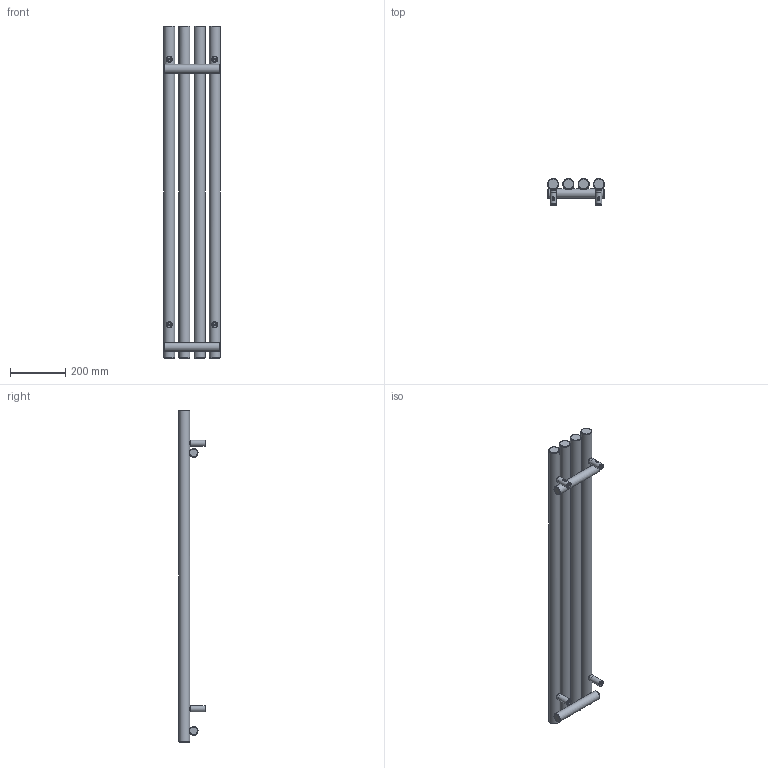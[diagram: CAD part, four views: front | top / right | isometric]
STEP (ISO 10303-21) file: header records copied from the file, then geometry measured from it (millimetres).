
FILE_DESCRIPTION(/* description */ (''),/* implementation_level */ '2;1');
FILE_NAME(/* name */ 'Z:\R\G\P\RGP116 - Grzejniki Geyser\Work\Inventor\Circolo (Rolo V, Rolo H)\ROLO-ROOM\Marketing\Bryły 3D\Zaokrąglone\WLROR120020-ES-CK-(Z).stp',/* time_stamp */ '2024-04-03T09:04:34+02:00',/* author */ ('NowAd'),/* organization */ (''),/* preprocessor_version */ 'ST-DEVELOPER v17.2',/* originating_system */ 'Autodesk Inventor 2019',/* authorisation */ '');
FILE_SCHEMA (('AUTOMOTIVE_DESIGN { 1 0 10303 214 3 1 1 }'));
Length unit declared in the file: millimetre
Products named in the file (3): WLROR120020-ES-CK-(Z); PGROR120020-ES-CK-(K); CK-V-fi40 marketing
Assembly tree (5 placements, depth 2):
  WLROR120020-ES-CK-(Z)
    PGROR120020-ES-CK-(K)
    CK-V-fi40 marketing  x4
Bounding box: 205 x 96.5 x 1200 mm (x, y, z)
Volume: 6403552.2 mm3; surface area: 684888.5 mm2
Topology: 5 solids, 5 shells, 310 faces, 784 edges, 524 vertices
Faces by surface type: plane 130, cylinder 72, cone 60, torus 40, bspline 8
Full cylindrical faces by diameter (mm): 4.134 x4, 4.48 x4, 6.4 x4, 10 x4, 12 x4, 15.834 x4, 16 x4, 18.631 x2, 22 x4, 32 x2, 40 x4
Entity records: 5738 total; most frequent: CARTESIAN_POINT 2655, DIRECTION 645, ORIENTED_EDGE 606, EDGE_CURVE 303, AXIS2_PLACEMENT_3D 286, VERTEX_POINT 206, EDGE_LOOP 161, CIRCLE 151
